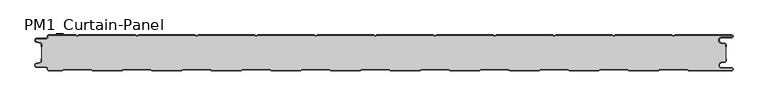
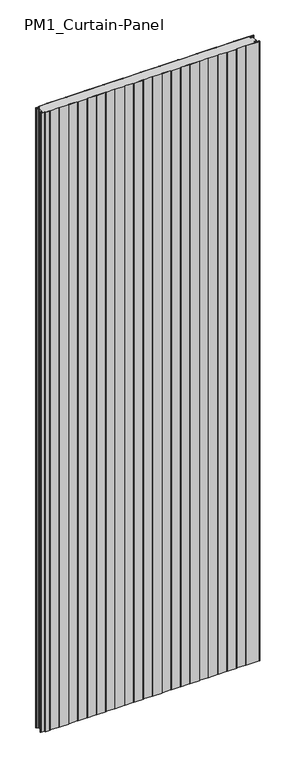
"""IFC4 building model written with IfcOpenShell, lengths in millimetres: plate geometry, PM1_Curtain-Panel : ACH_PM1_Stone-wool-Panel_60M."""

from ifc_helpers import new_model, si_unit, point, frame_2d, origin, origin_with_axes, place, context, project, spatial, polyline, circle_curve, trimmed, segment, composite_curve, outline, extrude, source, transform, mapped, element, save


def pm1_curtain_panel_746ca4a7(model_context):
    return source(origin(), model_context, "Body", "SweptSolid", [
        extrude(outline(composite_curve([segment(trimmed(circle_curve(frame_2d((-577.0, -15.878557)), 2.0), [point((-575.0, -15.878557))], [point((-576.5500978, -13.9298169))], True, "CARTESIAN"), True, "CONTINUOUS"), segment(polyline([(-576.5500978, -13.9298169), (-582.7098239, -12.507732)]), True, "CONTINUOUS"), segment(trimmed(circle_curve(frame_2d((-581.9, -9.0)), 3.6), [point((-582.7098239, -12.507732))], [point((-581.9, -5.4))], False, "CARTESIAN"), True, "CONTINUOUS"), segment(polyline([(-581.9, -5.4), (-566.4, -5.4)]), True, "CONTINUOUS"), segment(trimmed(circle_curve(frame_2d((-566.4, -3.4)), 2.0), [point((-566.4, -5.4))], [point((-564.4, -3.4))], True, "CARTESIAN"), True, "CONTINUOUS"), segment(polyline([(-564.4, -3.4), (-564.4, -2.0)]), True, "CONTINUOUS"), segment(trimmed(circle_curve(frame_2d((-562.4, -2.0)), 2.0), [point((-564.4, -2.0))], [point((-562.4, 0.0))], False, "CARTESIAN"), True, "CONTINUOUS"), segment(polyline([(-562.4, 0.0), (-517.0999995, 0.0), (-514.4, -1.5588455), (-511.7000005, 0.0), (-417.0999995, 0.0), (-414.4, -1.5588455), (-411.7000005, 0.0), (-317.0999995, 0.0), (-314.4, -1.5588455), (-311.7000005, 0.0), (-217.0999995, 0.0), (-214.4, -1.5588455), (-211.7000005, 0.0), (-117.0999995, 0.0), (-114.4, -1.5588455), (-111.7000005, 0.0), (-17.0999995, 0.0), (-14.4, -1.5588455), (-11.7000005, 0.0), (82.9000005, 0.0), (85.6, -1.5588455), (88.2999995, 0.0), (182.9000005, 0.0), (185.6, -1.5588455), (188.2999995, 0.0), (282.9000005, 0.0), (285.6, -1.5588455), (288.2999995, 0.0), (382.9000005, 0.0), (385.6, -1.5588455), (388.2999995, 0.0), (482.9000005, 0.0), (485.6, -1.5588455), (488.2999995, 0.0), (583.1, 0.0)]), True, "CONTINUOUS"), segment(trimmed(circle_curve(frame_2d((583.1, -2.5)), 2.5), [point((583.1, 0.0))], [point((583.1, -5.0))], False, "CARTESIAN"), True, "CONTINUOUS"), segment(polyline([(583.1, -5.0), (566.1, -5.0)]), True, "CONTINUOUS"), segment(trimmed(circle_curve(frame_2d((566.1, -9.0)), 4.0), [point((566.1, -5.0))], [point((565.405407, -12.939231))], True, "CARTESIAN"), True, "CONTINUOUS"), segment(polyline([(565.405407, -12.939231), (571.8514855, -14.0758491)]), True, "CONTINUOUS"), segment(trimmed(circle_curve(frame_2d((571.4, -16.6363492)), 2.6), [point((571.8514855, -14.0758491))], [point((574.0, -16.6363492))], False, "CARTESIAN"), True, "CONTINUOUS"), segment(polyline([(574.0, -16.6363492), (574.0, -20.0), (573.2, -20.0), (573.2, -16.6363492)]), True, "CONTINUOUS"), segment(trimmed(circle_curve(frame_2d((571.4, -16.6363492)), 1.8), [point((573.2, -16.6363492))], [point((571.7125669, -14.8636953))], True, "CARTESIAN"), True, "CONTINUOUS"), segment(polyline([(571.7125669, -14.8636953), (565.2664884, -13.7270772)]), True, "CONTINUOUS"), segment(trimmed(circle_curve(frame_2d((566.1, -9.0)), 4.8), [point((565.2664884, -13.7270772))], [point((566.1, -4.2))], False, "CARTESIAN"), True, "CONTINUOUS"), segment(polyline([(566.1, -4.2), (583.1, -4.2)]), True, "CONTINUOUS"), segment(trimmed(circle_curve(frame_2d((583.1, -2.5)), 1.7), [point((583.1, -4.2))], [point((583.1, -0.8))], True, "CARTESIAN"), True, "CONTINUOUS"), segment(polyline([(583.1, -0.8), (488.5143588, -0.8), (485.6, -2.482606), (482.6856412, -0.8), (388.5143588, -0.8), (385.6, -2.482606), (382.6856412, -0.8), (288.5143588, -0.8), (285.6, -2.482606), (282.6856412, -0.8), (188.5143588, -0.8), (185.6, -2.482606), (182.6856412, -0.8), (88.5143588, -0.8), (85.6, -2.482606), (82.6856412, -0.8), (-11.4856412, -0.8), (-14.4, -2.482606), (-17.3143588, -0.8), (-111.4856412, -0.8), (-114.4, -2.482606), (-117.3143588, -0.8), (-211.4856412, -0.8), (-214.4, -2.482606), (-217.3143588, -0.8), (-311.4856412, -0.8), (-314.4, -2.482606), (-317.3143588, -0.8), (-411.4856412, -0.8), (-414.4, -2.482606), (-417.3143588, -0.8), (-511.4856412, -0.8), (-514.4, -2.482606), (-517.3143588, -0.8), (-562.4, -0.8)]), True, "CONTINUOUS"), segment(trimmed(circle_curve(frame_2d((-562.4, -2.0)), 1.2), [point((-562.4, -0.8))], [point((-563.6, -2.0))], True, "CARTESIAN"), True, "CONTINUOUS"), segment(polyline([(-563.6, -2.0), (-563.6, -3.4)]), True, "CONTINUOUS"), segment(trimmed(circle_curve(frame_2d((-566.4, -3.4)), 2.8), [point((-563.6, -3.4))], [point((-566.4, -6.2))], False, "CARTESIAN"), True, "CONTINUOUS"), segment(polyline([(-566.4, -6.2), (-581.9, -6.2)]), True, "CONTINUOUS"), segment(trimmed(circle_curve(frame_2d((-581.9, -9.0)), 2.8), [point((-581.9, -6.2))], [point((-582.529863, -11.7282362))], True, "CARTESIAN"), True, "CONTINUOUS"), segment(polyline([(-582.529863, -11.7282362), (-576.370137, -13.150321)]), True, "CONTINUOUS"), segment(trimmed(circle_curve(frame_2d((-577.0, -15.878557)), 2.8), [point((-576.370137, -13.150321))], [point((-574.2, -15.878557))], False, "CARTESIAN"), True, "CONTINUOUS"), segment(polyline([(-574.2, -15.878557), (-574.2, -20.0), (-575.0, -20.0), (-575.0, -15.878557)]), True, "CONTINUOUS")], self_intersect=False)), origin_with_axes(), (0.0, 0.0, 1.0), 3500.0),
        extrude(outline(composite_curve([segment(polyline([(-574.2, -44.121443), (-574.2, -15.8785573)]), True, "CONTINUOUS"), segment(trimmed(circle_curve(frame_2d((-577.0, -15.8785573)), 2.8), [point((-574.2, -15.8785573))], [point((-576.370137, -13.1503212))], True, "CARTESIAN"), True, "CONTINUOUS"), segment(polyline([(-576.370137, -13.1503212), (-582.5298631, -11.7282362)]), True, "CONTINUOUS"), segment(trimmed(circle_curve(frame_2d((-581.9, -9.0)), 2.8), [point((-582.5298631, -11.7282362))], [point((-581.9, -6.2))], False, "CARTESIAN"), True, "CONTINUOUS"), segment(polyline([(-581.9, -6.2), (-566.4000001, -6.2)]), True, "CONTINUOUS"), segment(trimmed(circle_curve(frame_2d((-566.4000001, -3.4)), 2.8), [point((-566.4000001, -6.2))], [point((-563.6000001, -3.4))], True, "CARTESIAN"), True, "CONTINUOUS"), segment(polyline([(-563.6000001, -3.4), (-563.6000001, -2.0)]), True, "CONTINUOUS"), segment(trimmed(circle_curve(frame_2d((-562.4000001, -2.0)), 1.2), [point((-563.6000001, -2.0))], [point((-562.4000001, -0.8))], False, "CARTESIAN"), True, "CONTINUOUS"), segment(polyline([(-562.4000001, -0.8), (-517.3143589, -0.8), (-514.4000001, -2.482606), (-511.4856412, -0.8), (-417.3143589, -0.8), (-414.4000001, -2.482606), (-411.4856412, -0.8), (-317.3143589, -0.8), (-314.4000001, -2.482606), (-311.4856412, -0.8), (-217.3143589, -0.8), (-214.4000001, -2.482606), (-211.4856412, -0.8), (-117.3143589, -0.8), (-114.4000001, -2.482606), (-111.4856412, -0.8), (-17.3143589, -0.8), (-14.4000001, -2.482606), (-11.4856412, -0.8), (82.6856411, -0.8), (85.5999999, -2.482606), (88.5143588, -0.8), (182.6856411, -0.8), (185.5999999, -2.482606), (188.5143588, -0.8), (282.6856411, -0.8), (285.5999999, -2.482606), (288.5143588, -0.8), (382.6856411, -0.8), (385.5999999, -2.482606), (388.5143588, -0.8), (482.6856411, -0.8), (485.6, -2.482606), (488.5143588, -0.8), (583.1, -0.8)]), True, "CONTINUOUS"), segment(trimmed(circle_curve(frame_2d((583.1, -2.5)), 1.7), [point((583.1, -0.8))], [point((583.1, -4.2))], False, "CARTESIAN"), True, "CONTINUOUS"), segment(polyline([(583.1, -4.2), (566.1, -4.2)]), True, "CONTINUOUS"), segment(trimmed(circle_curve(frame_2d((566.1, -9.0)), 4.8), [point((566.1, -4.2))], [point((565.2664883, -13.7270771))], True, "CARTESIAN"), True, "CONTINUOUS"), segment(polyline([(565.2664883, -13.7270771), (571.7125668, -14.8636953)]), True, "CONTINUOUS"), segment(trimmed(circle_curve(frame_2d((571.4, -16.6363492)), 1.8), [point((571.7125668, -14.8636953))], [point((573.2, -16.6363492))], False, "CARTESIAN"), True, "CONTINUOUS"), segment(polyline([(573.2, -16.6363492), (573.2, -43.363652)]), True, "CONTINUOUS"), segment(trimmed(circle_curve(frame_2d((571.4, -43.363652)), 1.8), [point((573.2, -43.363652))], [point((571.7125666, -45.1363059))], False, "CARTESIAN"), True, "CONTINUOUS"), segment(polyline([(571.7125666, -45.1363059), (565.266489, -46.272923)]), True, "CONTINUOUS"), segment(trimmed(circle_curve(frame_2d((566.1, -51.0000002)), 4.7999999), [point((565.266489, -46.272923))], [point((566.1, -55.8000001))], True, "CARTESIAN"), True, "CONTINUOUS"), segment(polyline([(566.1, -55.8000001), (583.1, -55.8000001)]), True, "CONTINUOUS"), segment(trimmed(circle_curve(frame_2d((583.1, -57.5)), 1.7), [point((583.1, -55.8000001))], [point((583.1, -59.2))], False, "CARTESIAN"), True, "CONTINUOUS"), segment(polyline([(583.1, -59.2), (510.8105122, -59.2), (508.2124346, -57.7), (462.9837184, -57.7), (460.3856408, -59.2), (410.8105122, -59.2), (408.2124346, -57.7), (362.9837184, -57.7), (360.3856408, -59.2), (310.8105122, -59.2), (308.2124346, -57.7), (262.9837184, -57.7), (260.3856408, -59.2), (210.8105122, -59.2), (208.2124346, -57.7), (162.9837184, -57.7), (160.3856408, -59.2), (110.8105122, -59.2), (108.2124346, -57.7), (62.9837184, -57.7), (60.3856408, -59.2), (10.8105122, -59.2), (8.2124346, -57.7), (-37.0162816, -57.7), (-39.6143592, -59.2), (-89.1894878, -59.2), (-91.7875654, -57.7), (-137.0162816, -57.7), (-139.6143592, -59.2), (-189.1894878, -59.2), (-191.7875654, -57.7), (-237.0162816, -57.7), (-239.6143592, -59.2), (-289.1894878, -59.2), (-291.7875654, -57.7), (-337.0162816, -57.7), (-339.6143592, -59.2), (-389.1894878, -59.2), (-391.7875654, -57.7), (-437.0162816, -57.7), (-439.6143592, -59.2), (-489.1894878, -59.2), (-491.7875654, -57.7), (-537.0162816, -57.7), (-539.6143592, -59.2), (-562.4, -59.2)]), True, "CONTINUOUS"), segment(trimmed(circle_curve(frame_2d((-562.4, -58.0)), 1.2), [point((-562.4, -59.2))], [point((-563.6, -58.0))], False, "CARTESIAN"), True, "CONTINUOUS"), segment(polyline([(-563.6, -58.0), (-563.6, -56.5999998)]), True, "CONTINUOUS"), segment(trimmed(circle_curve(frame_2d((-566.4, -56.5999998)), 2.8), [point((-563.6, -56.5999998))], [point((-566.4, -53.7999998))], True, "CARTESIAN"), True, "CONTINUOUS"), segment(polyline([(-566.4, -53.7999998), (-581.9, -53.7999998)]), True, "CONTINUOUS"), segment(trimmed(circle_curve(frame_2d((-581.9, -51.0)), 2.7999998), [point((-581.9, -53.7999998))], [point((-582.529863, -48.271764))], False, "CARTESIAN"), True, "CONTINUOUS"), segment(polyline([(-582.529863, -48.271764), (-576.370137, -46.8496792)]), True, "CONTINUOUS"), segment(trimmed(circle_curve(frame_2d((-577.0, -44.121443)), 2.8), [point((-576.370137, -46.8496792))], [point((-574.2, -44.121443))], True, "CARTESIAN"), True, "CONTINUOUS")], self_intersect=False)), origin_with_axes(), (0.0, 0.0, 1.0), 3500.0),
        extrude(outline(composite_curve([segment(trimmed(circle_curve(frame_2d((-562.4, -58.0)), 2.0), [point((-562.4, -60.0))], [point((-564.4, -58.0))], False, "CARTESIAN"), True, "CONTINUOUS"), segment(polyline([(-564.4, -58.0), (-564.4, -56.6)]), True, "CONTINUOUS"), segment(trimmed(circle_curve(frame_2d((-566.4, -56.6)), 2.0), [point((-564.4, -56.6))], [point((-566.4, -54.6))], True, "CARTESIAN"), True, "CONTINUOUS"), segment(polyline([(-566.4, -54.6), (-581.9, -54.6)]), True, "CONTINUOUS"), segment(trimmed(circle_curve(frame_2d((-581.9, -51.0)), 3.6), [point((-581.9, -54.6))], [point((-582.7098239, -47.4922678))], False, "CARTESIAN"), True, "CONTINUOUS"), segment(polyline([(-582.7098239, -47.4922678), (-576.5500979, -46.070183)]), True, "CONTINUOUS"), segment(trimmed(circle_curve(frame_2d((-577.0, -44.121443)), 2.0), [point((-576.5500979, -46.070183))], [point((-575.0, -44.121443))], True, "CARTESIAN"), True, "CONTINUOUS"), segment(polyline([(-575.0, -44.121443), (-575.0, -40.0), (-574.2, -40.0), (-574.2, -44.121443)]), True, "CONTINUOUS"), segment(trimmed(circle_curve(frame_2d((-577.0, -44.121443)), 2.8), [point((-574.2, -44.121443))], [point((-576.370137, -46.8496792))], False, "CARTESIAN"), True, "CONTINUOUS"), segment(polyline([(-576.370137, -46.8496792), (-582.529863, -48.271764)]), True, "CONTINUOUS"), segment(trimmed(circle_curve(frame_2d((-581.9, -51.0)), 2.8), [point((-582.529863, -48.271764))], [point((-581.9, -53.8))], True, "CARTESIAN"), True, "CONTINUOUS"), segment(polyline([(-581.9, -53.8), (-566.4, -53.8)]), True, "CONTINUOUS"), segment(trimmed(circle_curve(frame_2d((-566.4, -56.6)), 2.8), [point((-566.4, -53.8))], [point((-563.6, -56.6))], False, "CARTESIAN"), True, "CONTINUOUS"), segment(polyline([(-563.6, -56.6), (-563.6, -58.0)]), True, "CONTINUOUS"), segment(trimmed(circle_curve(frame_2d((-562.4, -58.0)), 1.2), [point((-563.6, -58.0))], [point((-562.4, -59.2))], True, "CARTESIAN"), True, "CONTINUOUS"), segment(polyline([(-562.4, -59.2), (-539.6143592, -59.2), (-537.0162816, -57.7), (-491.7875654, -57.7), (-489.1894878, -59.2), (-439.6143592, -59.2), (-437.0162816, -57.7), (-391.7875654, -57.7), (-389.1894878, -59.2), (-339.6143592, -59.2), (-337.0162816, -57.7), (-291.7875654, -57.7), (-289.1894878, -59.2), (-239.6143592, -59.2), (-237.0162816, -57.7), (-191.7875654, -57.7), (-189.1894878, -59.2), (-139.6143592, -59.2), (-137.0162816, -57.7), (-91.7875654, -57.7), (-89.1894878, -59.2), (-39.6143592, -59.2), (-37.0162816, -57.7), (8.2124346, -57.7), (10.8105122, -59.2), (60.3856408, -59.2), (62.9837184, -57.7), (108.2124346, -57.7), (110.8105122, -59.2), (160.3856408, -59.2), (162.9837184, -57.7), (208.2124346, -57.7), (210.8105122, -59.2), (260.3856408, -59.2), (262.9837184, -57.7), (308.2124346, -57.7), (310.8105122, -59.2), (360.3856408, -59.2), (362.9837184, -57.7), (408.2124346, -57.7), (410.8105122, -59.2), (460.3856408, -59.2), (462.9837184, -57.7), (508.2124346, -57.7), (510.8105122, -59.2), (583.1, -59.2)]), True, "CONTINUOUS"), segment(trimmed(circle_curve(frame_2d((583.1, -57.5)), 1.7), [point((583.1, -59.2))], [point((583.1, -55.8))], True, "CARTESIAN"), True, "CONTINUOUS"), segment(polyline([(583.1, -55.8), (566.1, -55.8)]), True, "CONTINUOUS"), segment(trimmed(circle_curve(frame_2d((566.1, -51.0)), 4.8), [point((566.1, -55.8))], [point((565.266489, -46.2729227))], False, "CARTESIAN"), True, "CONTINUOUS"), segment(polyline([(565.266489, -46.2729227), (571.7125666, -45.1363058)]), True, "CONTINUOUS"), segment(trimmed(circle_curve(frame_2d((571.4, -43.363652)), 1.8), [point((571.7125666, -45.1363058))], [point((573.2, -43.363652))], True, "CARTESIAN"), True, "CONTINUOUS"), segment(polyline([(573.2, -43.363652), (573.2, -40.0), (574.0, -40.0), (574.0, -43.363652)]), True, "CONTINUOUS"), segment(trimmed(circle_curve(frame_2d((571.4, -43.363652)), 2.6), [point((574.0, -43.363652))], [point((571.8514851, -45.9241522))], False, "CARTESIAN"), True, "CONTINUOUS"), segment(polyline([(571.8514851, -45.9241522), (565.4054075, -47.0607691)]), True, "CONTINUOUS"), segment(trimmed(circle_curve(frame_2d((566.1, -51.0)), 4.0), [point((565.4054075, -47.0607691))], [point((566.1, -55.0))], True, "CARTESIAN"), True, "CONTINUOUS"), segment(polyline([(566.1, -55.0), (583.1, -55.0)]), True, "CONTINUOUS"), segment(trimmed(circle_curve(frame_2d((583.1, -57.5)), 2.5), [point((583.1, -55.0))], [point((583.1, -60.0))], False, "CARTESIAN"), True, "CONTINUOUS"), segment(polyline([(583.1, -60.0), (510.5961529, -60.0), (507.9980753, -58.5), (463.1980777, -58.5), (460.6000001, -60.0), (410.5961529, -60.0), (407.9980753, -58.5), (363.1980777, -58.5), (360.6000001, -60.0), (310.5961529, -60.0), (307.9980753, -58.5), (263.1980777, -58.5), (260.6000001, -60.0), (210.5961529, -60.0), (207.9980753, -58.5), (163.1980777, -58.5), (160.6000001, -60.0), (110.5961529, -60.0), (107.9980753, -58.5), (63.1980777, -58.5), (60.6000001, -60.0), (10.5961529, -60.0), (7.9980753, -58.5), (-36.8019223, -58.5), (-39.3999999, -60.0), (-89.4038471, -60.0), (-92.0019247, -58.5), (-136.8019223, -58.5), (-139.3999999, -60.0), (-189.4038471, -60.0), (-192.0019247, -58.5), (-236.8019223, -58.5), (-239.3999999, -60.0), (-289.4038471, -60.0), (-292.0019247, -58.5), (-336.8019223, -58.5), (-339.3999999, -60.0), (-389.4038471, -60.0), (-392.0019247, -58.5), (-436.8019223, -58.5), (-439.3999999, -60.0), (-489.4038471, -60.0), (-492.0019247, -58.5), (-536.8019223, -58.5), (-539.3999999, -60.0), (-562.4, -60.0)]), True, "CONTINUOUS")], self_intersect=False)), origin_with_axes(), (0.0, 0.0, 1.0), 3500.0),
    ])


if __name__ == "__main__":
    model = new_model("IFC4")
    model_context = context("Model", 3, world=origin())
    ifc_project = project(units=[si_unit("LENGTHUNIT", "METRE", prefix="MILLI")], contexts=[model_context])
    site = spatial("IfcSite", under=ifc_project)
    building = spatial("IfcBuilding", under=site)
    placement = place(None, origin())
    pm1_curtain_panel_shape = pm1_curtain_panel_746ca4a7(model_context)
    element("IfcPlate", 1, ObjectType="PM1_Curtain-Panel : ACH_PM1_Stone-wool-Panel_60M", at=placement, inside=building, context=model_context, shape_type="MappedRepresentation", body=[
        mapped(pm1_curtain_panel_shape, transform((0.0, 0.0, 0.0), x_axis=(1.0, 0.0, 0.0), y_axis=(0.0, 1.0, 0.0), z_axis=(0.0, 0.0, 1.0))),
    ])
    save(model, "model.ifc")
